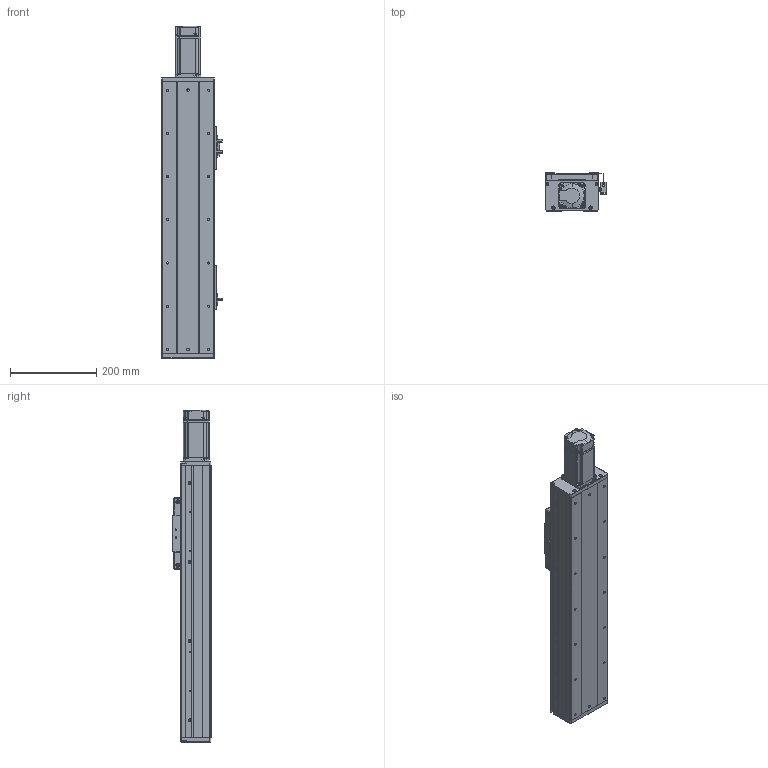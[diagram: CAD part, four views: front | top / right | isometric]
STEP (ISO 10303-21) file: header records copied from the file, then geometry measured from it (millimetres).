
FILE_DESCRIPTION (( 'STEP AP203' ), '1' );
FILE_NAME ('RY120F-L1620-300-MK.SLDASM_350.step', '2021-03-02T06:01:52', ( '盈信电脑' ), ( '东莞市道滘镇水果街19号' ), 'SwSTEP 2.0', 'SolidWorks 2012', '' );
FILE_SCHEMA (( 'CONFIG_CONTROL_DESIGN' ));
Length unit declared in the file: millimetre
Products named in the file (19): RY120F祥凄詩滅鳥裔; 滅袉蝶18-24; RY120F眻蟀ヶ裔啣; RY120F-臏賑輸奻釱; 絳寢賑輸EGH15; 15; 侂狟400W侜督萇儂; RY120F滅鳥詩湍-300-MK_350; RY120F-300-倰第菁釱_350; RY120F-300-倰第裔啣_350; RY120F綴裔啣(臏璃ㄘ; RY120F-L1620-300-MK.SLDASM_350; RY120F-臏賑輸 16蹟譫; 滅袉蝶18-28; 覜茼ん672; FY120F詩湍揤踡輸; 672嫖萇羲壽假蚾釱; RY80俋离覜茼え; RY120F-詩湍幗謫粣
Assembly tree (25 placements, depth 3):
  RY120F-L1620-300-MK.SLDASM_350
    RY120F-300-倰第菁釱_350
    RY120F-300-倰第裔啣_350  x2
    RY120F滅鳥詩湍-300-MK_350
    絳寢賑輸EGH15  x2
    RY120F-臏賑輸奻釱
    侂狟400W侜督萇儂
      15
    RY120F眻蟀ヶ裔啣
    RY120F祥凄詩滅鳥裔
    滅袉蝶18-24
    RY120F綴裔啣(臏璃ㄘ
    RY120F-詩湍幗謫粣
    覜茼ん672  x3
    672嫖萇羲壽假蚾釱  x2
    RY80俋离覜茼え
    FY120F詩湍揤踡輸  x2
    RY120F-臏賑輸 16蹟譫
    滅袉蝶18-28  x2
Bounding box: 140.35 x 89 x 768.5 mm (x, y, z)
Volume: 2625002.6 mm3; surface area: 892595.9 mm2
Topology: 24 solids, 24 shells, 2089 faces, 5577 edges, 3595 vertices
Faces by surface type: plane 966, cylinder 918, cone 187, bspline 18
Entity records: 55466 total; most frequent: CARTESIAN_POINT 9887, DIRECTION 9407, ORIENTED_EDGE 8798, EDGE_CURVE 4399, AXIS2_PLACEMENT_3D 3385, VERTEX_POINT 2879, VECTOR 2637, LINE 2637
